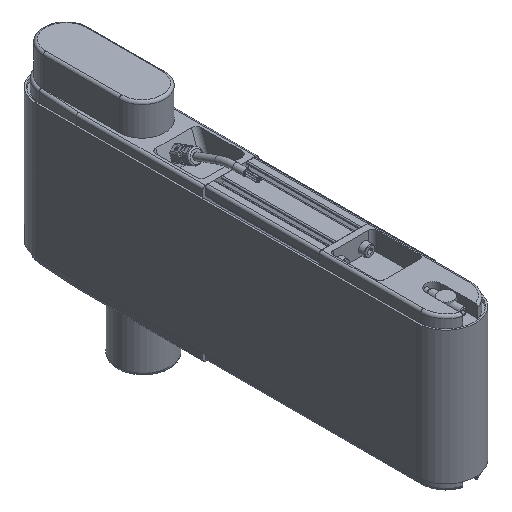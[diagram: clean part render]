
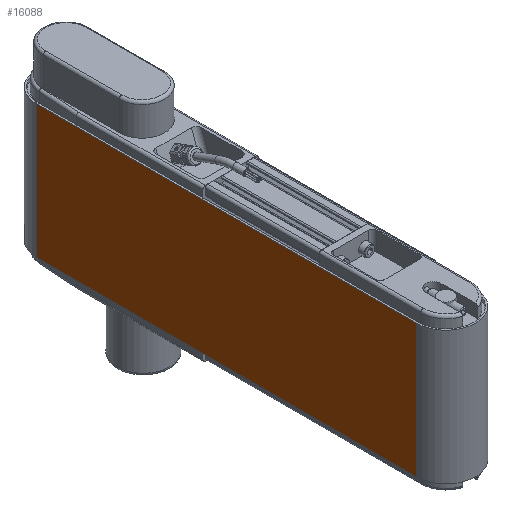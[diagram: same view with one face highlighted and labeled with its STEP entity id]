
A CAD part, isometric view. The second image highlights one B-rep face of the part: STEP entity #16088.
In plain terms, the highlighted planar face has unit normal (-1, 0, 0).
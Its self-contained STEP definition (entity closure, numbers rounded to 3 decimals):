
#506=PLANE('',#17149);
#1167=FACE_OUTER_BOUND('',#2058,.T.);
#2058=EDGE_LOOP('',(#10876,#10877,#10878,#10879));
#3062=LINE('',#23926,#4314);
#3063=LINE('',#23931,#4315);
#3065=LINE('',#23935,#4317);
#3066=LINE('',#23936,#4318);
#4314=VECTOR('',#19255,10.);
#4315=VECTOR('',#19260,10.);
#4317=VECTOR('',#19264,10.);
#4318=VECTOR('',#19265,10.);
#6455=VERTEX_POINT('',#23920);
#6457=VERTEX_POINT('',#23924);
#6459=VERTEX_POINT('',#23929);
#6460=VERTEX_POINT('',#23934);
#8168=EDGE_CURVE('',#6455,#6457,#3062,.T.);
#8170=EDGE_CURVE('',#6459,#6457,#3063,.T.);
#8172=EDGE_CURVE('',#6459,#6460,#3065,.T.);
#8173=EDGE_CURVE('',#6460,#6455,#3066,.T.);
#10876=ORIENTED_EDGE('',*,*,#8172,.T.);
#10877=ORIENTED_EDGE('',*,*,#8173,.T.);
#10878=ORIENTED_EDGE('',*,*,#8168,.T.);
#10879=ORIENTED_EDGE('',*,*,#8170,.F.);
#16088=ADVANCED_FACE('',(#1167),#506,.T.);
#17149=AXIS2_PLACEMENT_3D('',#23933,#19262,#19263);
#19255=DIRECTION('',(0.,1.,0.));
#19260=DIRECTION('',(0.,0.,1.));
#19262=DIRECTION('center_axis',(-1.,0.,0.));
#19263=DIRECTION('ref_axis',(0.,0.,
1.));
#19264=DIRECTION('',(0.,-1.,0.));
#19265=DIRECTION('',(0.,0.,1.));
#23920=CARTESIAN_POINT('',(-23.3,-170.,52.5));
#23924=CARTESIAN_POINT('',(-23.3,130.,52.5));
#23926=CARTESIAN_POINT('',(-23.3,130.,52.5));
#23929=CARTESIAN_POINT('',(-23.3,130.,-52.5));
#23931=CARTESIAN_POINT('',(-23.3,130.,0.));
#23933=CARTESIAN_POINT('Origin',(-23.3,130.,0.));
#23934=CARTESIAN_POINT('',(-23.3,-170.,-52.5));
#23935=CARTESIAN_POINT('',(-23.3,130.,-52.5));
#23936=CARTESIAN_POINT('',(-23.3,-170.,0.));
